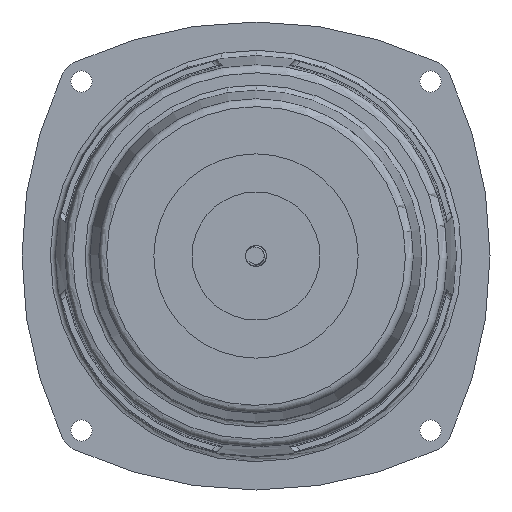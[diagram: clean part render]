
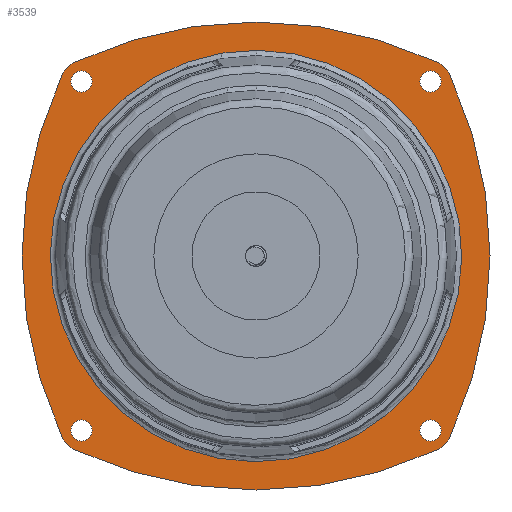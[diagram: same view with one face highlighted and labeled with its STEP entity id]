
A CAD part, front view. The second image highlights one B-rep face of the part: STEP entity #3539.
In plain terms, the highlighted planar face has unit normal (0, -1, 0).
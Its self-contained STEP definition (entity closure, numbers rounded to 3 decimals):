
#42=FACE_BOUND('',#788,.T.);
#43=FACE_BOUND('',#789,.T.);
#44=FACE_BOUND('',#790,.T.);
#45=FACE_BOUND('',#791,.T.);
#46=FACE_BOUND('',#792,.T.);
#84=PLANE('',#3789);
#590=FACE_OUTER_BOUND('',#787,.T.);
#787=EDGE_LOOP('',(#2870,#2871,#2872,#2873,#2874,#2875,#2876,#2877));
#788=EDGE_LOOP('',(#2878));
#789=EDGE_LOOP('',(#2879));
#790=EDGE_LOOP('',(#2880));
#791=EDGE_LOOP('',(#2881));
#792=EDGE_LOOP('',(#2882));
#913=CIRCLE('',#3725,2.);
#915=CIRCLE('',#3728,2.);
#923=CIRCLE('',#3743,81.);
#925=CIRCLE('',#3746,5.);
#928=CIRCLE('',#3750,81.);
#929=CIRCLE('',#3752,5.);
#957=CIRCLE('',#3788,81.);
#958=CIRCLE('',#3790,5.);
#959=CIRCLE('',#3791,81.);
#960=CIRCLE('',#3792,5.);
#961=CIRCLE('',#3793,2.);
#962=CIRCLE('',#3794,2.);
#963=CIRCLE('',#3795,38.9);
#1499=VERTEX_POINT('',#9723);
#1501=VERTEX_POINT('',#9729);
#1525=VERTEX_POINT('',#10006);
#1526=VERTEX_POINT('',#10007);
#1529=VERTEX_POINT('',#10015);
#1532=VERTEX_POINT('',#10022);
#1533=VERTEX_POINT('',#10027);
#1555=VERTEX_POINT('',#10359);
#1556=VERTEX_POINT('',#10363);
#1557=VERTEX_POINT('',#10365);
#1558=VERTEX_POINT('',#10368);
#1559=VERTEX_POINT('',#10370);
#1560=VERTEX_POINT('',#10372);
#1965=EDGE_CURVE('',#1499,#1499,#913,.T.);
#1968=EDGE_CURVE('',#1501,#1501,#915,.T.);
#1997=EDGE_CURVE('',#1525,#1526,#923,.T.);
#2001=EDGE_CURVE('',#1529,#1526,#925,.T.);
#2006=EDGE_CURVE('',#1529,#1532,#928,.T.);
#2007=EDGE_CURVE('',#1533,#1532,#929,.T.);
#2041=EDGE_CURVE('',#1533,#1555,#957,.T.);
#2043=EDGE_CURVE('',#1525,#1556,#958,.T.);
#2044=EDGE_CURVE('',#1557,#1556,#959,.T.);
#2045=EDGE_CURVE('',#1557,#1555,#960,.T.);
#2046=EDGE_CURVE('',#1558,#1558,#961,.T.);
#2047=EDGE_CURVE('',#1559,#1559,#962,.T.);
#2048=EDGE_CURVE('',#1560,#1560,#963,.T.);
#2870=ORIENTED_EDGE('',*,*,#2041,.F.);
#2871=ORIENTED_EDGE('',*,*,#2007,.T.);
#2872=ORIENTED_EDGE('',*,*,#2006,.F.);
#2873=ORIENTED_EDGE('',*,*,#2001,.T.);
#2874=ORIENTED_EDGE('',*,*,#1997,.F.);
#2875=ORIENTED_EDGE('',*,*,#2043,.T.);
#2876=ORIENTED_EDGE('',*,*,#2044,.F.);
#2877=ORIENTED_EDGE('',*,*,#2045,.T.);
#2878=ORIENTED_EDGE('',*,*,#2046,.T.);
#2879=ORIENTED_EDGE('',*,*,#2047,.T.);
#2880=ORIENTED_EDGE('',*,*,#1965,.T.);
#2881=ORIENTED_EDGE('',*,*,#1968,.T.);
#2882=ORIENTED_EDGE('',*,*,#2048,.F.);
#3539=ADVANCED_FACE('',(#590,#42,#43,#44,#45,#46),#84,.F.);
#3725=AXIS2_PLACEMENT_3D('',#9724,#4177,#4178);
#3728=AXIS2_PLACEMENT_3D('',#9730,#4184,#4185);
#3743=AXIS2_PLACEMENT_3D('',#10008,#4223,#4224);
#3746=AXIS2_PLACEMENT_3D('',#10016,#4231,#4232);
#3750=AXIS2_PLACEMENT_3D('',#10025,#4241,#4242);
#3752=AXIS2_PLACEMENT_3D('',#10028,#4245,#4246);
#3788=AXIS2_PLACEMENT_3D('',#10360,#4319,#4320);
#3789=AXIS2_PLACEMENT_3D('',#10362,#4322,#4323);
#3790=AXIS2_PLACEMENT_3D('',#10364,#4324,#4325);
#3791=AXIS2_PLACEMENT_3D('',#10366,#4326,#4327);
#3792=AXIS2_PLACEMENT_3D('',#10367,#4328,#4329);
#3793=AXIS2_PLACEMENT_3D('',#10369,#4330,#4331);
#3794=AXIS2_PLACEMENT_3D('',#10371,#4332,#4333);
#3795=AXIS2_PLACEMENT_3D('',#10373,#4334,#4335);
#4177=DIRECTION('center_axis',(0.,1.,0.));
#4178=DIRECTION('ref_axis',(0.,0.,-1.));
#4184=DIRECTION('center_axis',(0.,1.,0.));
#4185=DIRECTION('ref_axis',(0.,0.,-1.));
#4223=DIRECTION('center_axis',(0.,1.,0.));
#4224=DIRECTION('ref_axis',(-0.906,0.,-0.423));
#4231=DIRECTION('center_axis',(0.,-1.,0.));
#4232=DIRECTION('ref_axis',(-0.423,0.,0.906));
#4241=DIRECTION('center_axis',(0.,1.,0.));
#4242=DIRECTION('ref_axis',(-0.423,0.,0.906));
#4245=DIRECTION('center_axis',(0.,-1.,0.));
#4246=DIRECTION('ref_axis',(0.906,0.,0.423));
#4319=DIRECTION('center_axis',(0.,1.,0.));
#4320=DIRECTION('ref_axis',(0.906,0.,0.423));
#4322=DIRECTION('center_axis',(0.,1.,0.));
#4323=DIRECTION('ref_axis',(1.,0.,0.));
#4324=DIRECTION('center_axis',(0.,-1.,0.));
#4325=DIRECTION('ref_axis',(-0.906,0.,-0.423));
#4326=DIRECTION('center_axis',(0.,1.,0.));
#4327=DIRECTION('ref_axis',(0.423,0.,-0.906));
#4328=DIRECTION('center_axis',(0.,-1.,0.));
#4329=DIRECTION('ref_axis',(0.423,0.,-0.906));
#4330=DIRECTION('center_axis',(0.,1.,0.));
#4331=DIRECTION('ref_axis',(0.,0.,-1.));
#4332=DIRECTION('center_axis',(0.,1.,0.));
#4333=DIRECTION('ref_axis',(0.,0.,-1.));
#4334=DIRECTION('center_axis',(0.,-1.,0.));
#4335=DIRECTION('ref_axis',(1.,0.,0.));
#9723=CARTESIAN_POINT('',(33.,0.,35.));
#9724=CARTESIAN_POINT('Origin',(33.,0.,33.));
#9729=CARTESIAN_POINT('',(-33.,0.,35.));
#9730=CARTESIAN_POINT('Origin',(-33.,0.,33.));
#10006=CARTESIAN_POINT('',(-36.657,0.,-34.24));
#10007=CARTESIAN_POINT('',(-36.657,0.,34.24));
#10008=CARTESIAN_POINT('Origin',(36.75,0.,0.));
#10015=CARTESIAN_POINT('',(-34.24,0.,36.657));
#10016=CARTESIAN_POINT('Origin',(-32.126,0.,32.126));
#10022=CARTESIAN_POINT('',(34.24,0.,36.657));
#10025=CARTESIAN_POINT('Origin',(0.,0.,-36.75));
#10027=CARTESIAN_POINT('',(36.657,0.,34.24));
#10028=CARTESIAN_POINT('Origin',(32.126,0.,32.126));
#10359=CARTESIAN_POINT('',(36.657,0.,-34.24));
#10360=CARTESIAN_POINT('Origin',(-36.75,0.,0.));
#10362=CARTESIAN_POINT('Origin',(0.,0.,0.));
#10363=CARTESIAN_POINT('',(-34.24,0.,-36.657));
#10364=CARTESIAN_POINT('Origin',(-32.126,0.,-32.126));
#10365=CARTESIAN_POINT('',(34.24,0.,-36.657));
#10366=CARTESIAN_POINT('Origin',(0.,0.,36.75));
#10367=CARTESIAN_POINT('Origin',(32.126,0.,-32.126));
#10368=CARTESIAN_POINT('',(33.,0.,-31.));
#10369=CARTESIAN_POINT('Origin',(33.,0.,-33.));
#10370=CARTESIAN_POINT('',(-33.,0.,-31.));
#10371=CARTESIAN_POINT('Origin',(-33.,0.,-33.));
#10372=CARTESIAN_POINT('',(-38.899,0.,0.316));
#10373=CARTESIAN_POINT('Origin',(0.,0.,0.));
